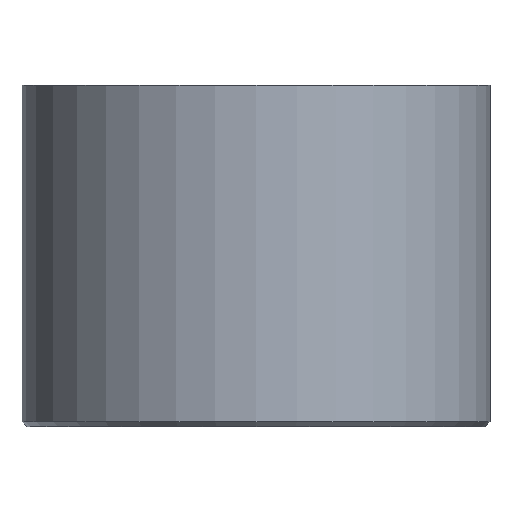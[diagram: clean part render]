
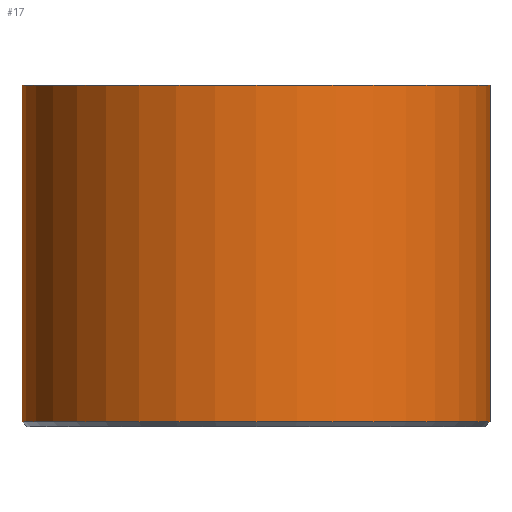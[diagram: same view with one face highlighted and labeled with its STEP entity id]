
A CAD part, front view. The second image highlights one B-rep face of the part: STEP entity #17.
In plain terms, the highlighted cylindrical face has radius 48 mm (diameter 96 mm), a full revolution.
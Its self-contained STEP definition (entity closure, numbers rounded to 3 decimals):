
#17 = ADVANCED_FACE('',(#18,#105),#31,.T.);
#18 = FACE_BOUND('',#19,.F.);
#19 = EDGE_LOOP('',(#20,#54,#77,#104));
#20 = ORIENTED_EDGE('',*,*,#21,.F.);
#21 = EDGE_CURVE('',#22,#22,#24,.T.);
#22 = VERTEX_POINT('',#23);
#23 = CARTESIAN_POINT('',(48.,0.,1.064));
#24 = SURFACE_CURVE('',#25,(#30,#42),.PCURVE_S1.);
#25 = CIRCLE('',#26,48.);
#26 = AXIS2_PLACEMENT_3D('',#27,#28,#29);
#27 = CARTESIAN_POINT('',(0.,0.,1.064));
#28 = DIRECTION('',(0.,0.,1.));
#29 = DIRECTION('',(1.,0.,-0.));
#30 = PCURVE('',#31,#36);
#31 = CYLINDRICAL_SURFACE('',#32,48.);
#32 = AXIS2_PLACEMENT_3D('',#33,#34,#35);
#33 = CARTESIAN_POINT('',(0.,0.,0.064));
#34 = DIRECTION('',(-0.,-0.,-1.));
#35 = DIRECTION('',(1.,0.,0.));
#36 = DEFINITIONAL_REPRESENTATION('',(#37),#41);
#37 = LINE('',#38,#39);
#38 = CARTESIAN_POINT('',(-0.,-1.));
#39 = VECTOR('',#40,1.);
#40 = DIRECTION('',(-1.,0.));
#41 = ( GEOMETRIC_REPRESENTATION_CONTEXT(2) 
PARAMETRIC_REPRESENTATION_CONTEXT() REPRESENTATION_CONTEXT('2D SPACE',''
  ) );
#42 = PCURVE('',#43,#48);
#43 = CONICAL_SURFACE('',#44,48.,0.785);
#44 = AXIS2_PLACEMENT_3D('',#45,#46,#47);
#45 = CARTESIAN_POINT('',(0.,0.,1.064));
#46 = DIRECTION('',(0.,0.,1.));
#47 = DIRECTION('',(1.,0.,-0.));
#48 = DEFINITIONAL_REPRESENTATION('',(#49),#53);
#49 = LINE('',#50,#51);
#50 = CARTESIAN_POINT('',(0.,-0.));
#51 = VECTOR('',#52,1.);
#52 = DIRECTION('',(1.,-0.));
#53 = ( GEOMETRIC_REPRESENTATION_CONTEXT(2) 
PARAMETRIC_REPRESENTATION_CONTEXT() REPRESENTATION_CONTEXT('2D SPACE',''
  ) );
#54 = ORIENTED_EDGE('',*,*,#55,.T.);
#55 = EDGE_CURVE('',#22,#56,#58,.T.);
#56 = VERTEX_POINT('',#57);
#57 = CARTESIAN_POINT('',(48.,0.,70.064));
#58 = SEAM_CURVE('',#59,(#63,#70),.PCURVE_S1.);
#59 = LINE('',#60,#61);
#60 = CARTESIAN_POINT('',(48.,0.,0.064));
#61 = VECTOR('',#62,1.);
#62 = DIRECTION('',(0.,0.,1.));
#63 = PCURVE('',#31,#64);
#64 = DEFINITIONAL_REPRESENTATION('',(#65),#69);
#65 = LINE('',#66,#67);
#66 = CARTESIAN_POINT('',(-6.283,0.));
#67 = VECTOR('',#68,1.);
#68 = DIRECTION('',(-0.,-1.));
#69 = ( GEOMETRIC_REPRESENTATION_CONTEXT(2) 
PARAMETRIC_REPRESENTATION_CONTEXT() REPRESENTATION_CONTEXT('2D SPACE',''
  ) );
#70 = PCURVE('',#31,#71);
#71 = DEFINITIONAL_REPRESENTATION('',(#72),#76);
#72 = LINE('',#73,#74);
#73 = CARTESIAN_POINT('',(-0.,0.));
#74 = VECTOR('',#75,1.);
#75 = DIRECTION('',(-0.,-1.));
#76 = ( GEOMETRIC_REPRESENTATION_CONTEXT(2) 
PARAMETRIC_REPRESENTATION_CONTEXT() REPRESENTATION_CONTEXT('2D SPACE',''
  ) );
#77 = ORIENTED_EDGE('',*,*,#78,.T.);
#78 = EDGE_CURVE('',#56,#56,#79,.T.);
#79 = SURFACE_CURVE('',#80,(#85,#92),.PCURVE_S1.);
#80 = CIRCLE('',#81,48.);
#81 = AXIS2_PLACEMENT_3D('',#82,#83,#84);
#82 = CARTESIAN_POINT('',(0.,0.,70.064));
#83 = DIRECTION('',(0.,0.,1.));
#84 = DIRECTION('',(1.,0.,0.));
#85 = PCURVE('',#31,#86);
#86 = DEFINITIONAL_REPRESENTATION('',(#87),#91);
#87 = LINE('',#88,#89);
#88 = CARTESIAN_POINT('',(-0.,-70.));
#89 = VECTOR('',#90,1.);
#90 = DIRECTION('',(-1.,0.));
#91 = ( GEOMETRIC_REPRESENTATION_CONTEXT(2) 
PARAMETRIC_REPRESENTATION_CONTEXT() REPRESENTATION_CONTEXT('2D SPACE',''
  ) );
#92 = PCURVE('',#93,#98);
#93 = PLANE('',#94);
#94 = AXIS2_PLACEMENT_3D('',#95,#96,#97);
#95 = CARTESIAN_POINT('',(0.,0.,
    70.064));
#96 = DIRECTION('',(0.,0.,1.));
#97 = DIRECTION('',(1.,0.,-0.));
#98 = DEFINITIONAL_REPRESENTATION('',(#99),#103);
#99 = CIRCLE('',#100,48.);
#100 = AXIS2_PLACEMENT_2D('',#101,#102);
#101 = CARTESIAN_POINT('',(0.,0.));
#102 = DIRECTION('',(1.,0.));
#103 = ( GEOMETRIC_REPRESENTATION_CONTEXT(2) 
PARAMETRIC_REPRESENTATION_CONTEXT() REPRESENTATION_CONTEXT('2D SPACE',''
  ) );
#104 = ORIENTED_EDGE('',*,*,#55,.F.);
#105 = FACE_BOUND('',#106,.F.);
#106 = EDGE_LOOP('',(#107,#142,#170,#203));
#107 = ORIENTED_EDGE('',*,*,#108,.T.);
#108 = EDGE_CURVE('',#109,#111,#113,.T.);
#109 = VERTEX_POINT('',#110);
#110 = CARTESIAN_POINT('',(12.925,46.227,
    66.064));
#111 = VERTEX_POINT('',#112);
#112 = CARTESIAN_POINT('',(21.327,43.002,
    66.064));
#113 = SURFACE_CURVE('',#114,(#119,#126),.PCURVE_S1.);
#114 = CIRCLE('',#115,48.);
#115 = AXIS2_PLACEMENT_3D('',#116,#117,#118);
#116 = CARTESIAN_POINT('',(0.,0.,66.064));
#117 = DIRECTION('',(0.,0.,-1.));
#118 = DIRECTION('',(1.,0.,0.));
#119 = PCURVE('',#31,#120);
#120 = DEFINITIONAL_REPRESENTATION('',(#121),#125);
#121 = LINE('',#122,#123);
#122 = CARTESIAN_POINT('',(-6.283,-66.));
#123 = VECTOR('',#124,1.);
#124 = DIRECTION('',(1.,-0.));
#125 = ( GEOMETRIC_REPRESENTATION_CONTEXT(2) 
PARAMETRIC_REPRESENTATION_CONTEXT() REPRESENTATION_CONTEXT('2D SPACE',''
  ) );
#126 = PCURVE('',#127,#132);
#127 = PLANE('',#128);
#128 = AXIS2_PLACEMENT_3D('',#129,#130,#131);
#129 = CARTESIAN_POINT('',(20.435,40.679,
    66.064));
#130 = DIRECTION('',(0.,0.,1.));
#131 = DIRECTION('',(0.358,0.934,0.));
#132 = DEFINITIONAL_REPRESENTATION('',(#133),#141);
#133 = ( BOUNDED_CURVE() B_SPLINE_CURVE(2,(#134,#135,#136,#137,#138,#139
,#140),.UNSPECIFIED.,.T.,.F.) B_SPLINE_CURVE_WITH_KNOTS((1,2,2,2,2,1),(
    -2.094,0.,2.094,4.189,6.283,
8.378),.UNSPECIFIED.) CURVE() GEOMETRIC_REPRESENTATION_ITEM() 
RATIONAL_B_SPLINE_CURVE((1.,0.5,1.,0.5,1.,0.5,1.)) REPRESENTATION_ITEM(
  '') );
#134 = CARTESIAN_POINT('',(-28.098,-40.312));
#135 = CARTESIAN_POINT('',(-105.715,-70.106));
#136 = CARTESIAN_POINT('',(-92.709,12.009));
#137 = CARTESIAN_POINT('',(-79.703,94.124));
#138 = CARTESIAN_POINT('',(-15.093,41.803));
#139 = CARTESIAN_POINT('',(49.518,-10.518));
#140 = CARTESIAN_POINT('',(-28.098,-40.312));
#141 = ( GEOMETRIC_REPRESENTATION_CONTEXT(2) 
PARAMETRIC_REPRESENTATION_CONTEXT() REPRESENTATION_CONTEXT('2D SPACE',''
  ) );
#142 = ORIENTED_EDGE('',*,*,#143,.T.);
#143 = EDGE_CURVE('',#111,#144,#146,.T.);
#144 = VERTEX_POINT('',#145);
#145 = CARTESIAN_POINT('',(21.327,43.002,
    61.864));
#146 = SURFACE_CURVE('',#147,(#151,#158),.PCURVE_S1.);
#147 = LINE('',#148,#149);
#148 = CARTESIAN_POINT('',(21.327,43.002,
    0.064));
#149 = VECTOR('',#150,1.);
#150 = DIRECTION('',(-0.,-0.,-1.));
#151 = PCURVE('',#31,#152);
#152 = DEFINITIONAL_REPRESENTATION('',(#153),#157);
#153 = LINE('',#154,#155);
#154 = CARTESIAN_POINT('',(-1.11,0.));
#155 = VECTOR('',#156,1.);
#156 = DIRECTION('',(-0.,1.));
#157 = ( GEOMETRIC_REPRESENTATION_CONTEXT(2) 
PARAMETRIC_REPRESENTATION_CONTEXT() REPRESENTATION_CONTEXT('2D SPACE',''
  ) );
#158 = PCURVE('',#159,#164);
#159 = PLANE('',#160);
#160 = AXIS2_PLACEMENT_3D('',#161,#162,#163);
#161 = CARTESIAN_POINT('',(20.435,40.679,
    61.864));
#162 = DIRECTION('',(-0.934,0.358,0.));
#163 = DIRECTION('',(0.,0.,1.));
#164 = DEFINITIONAL_REPRESENTATION('',(#165),#169);
#165 = LINE('',#166,#167);
#166 = CARTESIAN_POINT('',(-61.8,2.489));
#167 = VECTOR('',#168,1.);
#168 = DIRECTION('',(-1.,0.));
#169 = ( GEOMETRIC_REPRESENTATION_CONTEXT(2) 
PARAMETRIC_REPRESENTATION_CONTEXT() REPRESENTATION_CONTEXT('2D SPACE',''
  ) );
#170 = ORIENTED_EDGE('',*,*,#171,.F.);
#171 = EDGE_CURVE('',#172,#144,#174,.T.);
#172 = VERTEX_POINT('',#173);
#173 = CARTESIAN_POINT('',(12.925,46.227,
    61.864));
#174 = SURFACE_CURVE('',#175,(#180,#187),.PCURVE_S1.);
#175 = CIRCLE('',#176,48.);
#176 = AXIS2_PLACEMENT_3D('',#177,#178,#179);
#177 = CARTESIAN_POINT('',(0.,0.,61.864));
#178 = DIRECTION('',(0.,0.,-1.));
#179 = DIRECTION('',(1.,0.,0.));
#180 = PCURVE('',#31,#181);
#181 = DEFINITIONAL_REPRESENTATION('',(#182),#186);
#182 = LINE('',#183,#184);
#183 = CARTESIAN_POINT('',(-6.283,-61.8));
#184 = VECTOR('',#185,1.);
#185 = DIRECTION('',(1.,-0.));
#186 = ( GEOMETRIC_REPRESENTATION_CONTEXT(2) 
PARAMETRIC_REPRESENTATION_CONTEXT() REPRESENTATION_CONTEXT('2D SPACE',''
  ) );
#187 = PCURVE('',#188,#193);
#188 = PLANE('',#189);
#189 = AXIS2_PLACEMENT_3D('',#190,#191,#192);
#190 = CARTESIAN_POINT('',(20.435,40.679,
    61.864));
#191 = DIRECTION('',(0.,0.,1.));
#192 = DIRECTION('',(0.358,0.934,0.));
#193 = DEFINITIONAL_REPRESENTATION('',(#194),#202);
#194 = ( BOUNDED_CURVE() B_SPLINE_CURVE(2,(#195,#196,#197,#198,#199,#200
,#201),.UNSPECIFIED.,.T.,.F.) B_SPLINE_CURVE_WITH_KNOTS((1,2,2,2,2,1),(
    -2.094,0.,2.094,4.189,6.283,
8.378),.UNSPECIFIED.) CURVE() GEOMETRIC_REPRESENTATION_ITEM() 
RATIONAL_B_SPLINE_CURVE((1.,0.5,1.,0.5,1.,0.5,1.)) REPRESENTATION_ITEM(
  '') );
#195 = CARTESIAN_POINT('',(-28.098,-40.312));
#196 = CARTESIAN_POINT('',(-105.715,-70.106));
#197 = CARTESIAN_POINT('',(-92.709,12.009));
#198 = CARTESIAN_POINT('',(-79.703,94.124));
#199 = CARTESIAN_POINT('',(-15.093,41.803));
#200 = CARTESIAN_POINT('',(49.518,-10.518));
#201 = CARTESIAN_POINT('',(-28.098,-40.312));
#202 = ( GEOMETRIC_REPRESENTATION_CONTEXT(2) 
PARAMETRIC_REPRESENTATION_CONTEXT() REPRESENTATION_CONTEXT('2D SPACE',''
  ) );
#203 = ORIENTED_EDGE('',*,*,#204,.F.);
#204 = EDGE_CURVE('',#109,#172,#205,.T.);
#205 = SURFACE_CURVE('',#206,(#210,#217),.PCURVE_S1.);
#206 = LINE('',#207,#208);
#207 = CARTESIAN_POINT('',(12.925,46.227,
    0.064));
#208 = VECTOR('',#209,1.);
#209 = DIRECTION('',(-0.,-0.,-1.));
#210 = PCURVE('',#31,#211);
#211 = DEFINITIONAL_REPRESENTATION('',(#212),#216);
#212 = LINE('',#213,#214);
#213 = CARTESIAN_POINT('',(-1.298,0.));
#214 = VECTOR('',#215,1.);
#215 = DIRECTION('',(-0.,1.));
#216 = ( GEOMETRIC_REPRESENTATION_CONTEXT(2) 
PARAMETRIC_REPRESENTATION_CONTEXT() REPRESENTATION_CONTEXT('2D SPACE',''
  ) );
#217 = PCURVE('',#218,#223);
#218 = PLANE('',#219);
#219 = AXIS2_PLACEMENT_3D('',#220,#221,#222);
#220 = CARTESIAN_POINT('',(12.033,43.904,
    61.864));
#221 = DIRECTION('',(-0.934,0.358,0.));
#222 = DIRECTION('',(0.,0.,1.));
#223 = DEFINITIONAL_REPRESENTATION('',(#224),#228);
#224 = LINE('',#225,#226);
#225 = CARTESIAN_POINT('',(-61.8,2.489));
#226 = VECTOR('',#227,1.);
#227 = DIRECTION('',(-1.,0.));
#228 = ( GEOMETRIC_REPRESENTATION_CONTEXT(2) 
PARAMETRIC_REPRESENTATION_CONTEXT() REPRESENTATION_CONTEXT('2D SPACE',''
  ) );
